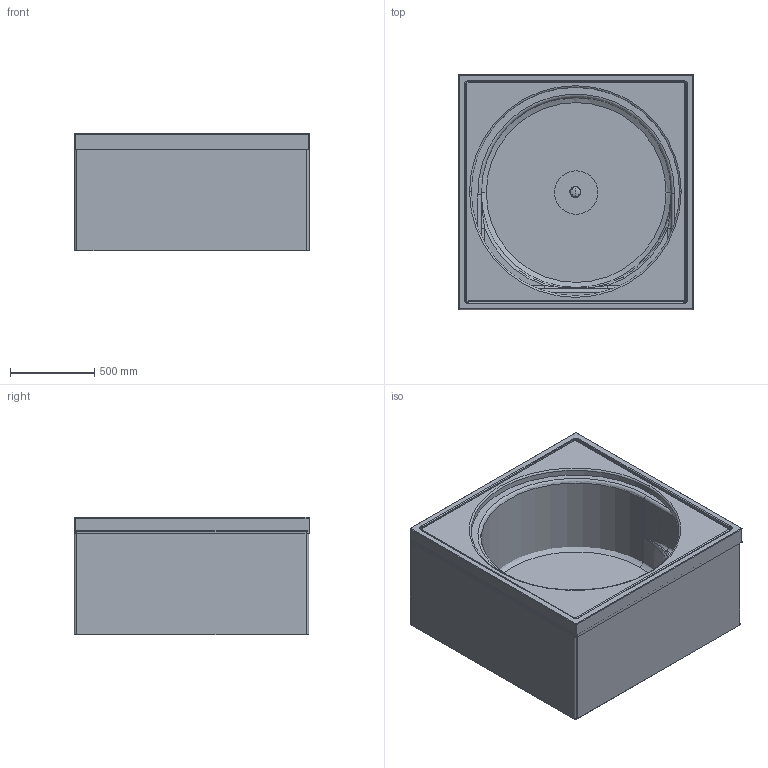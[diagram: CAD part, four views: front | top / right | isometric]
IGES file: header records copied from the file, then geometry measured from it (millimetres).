
Global section: file name: No Iges File Name specified; native system: Autodesk Inventor 2009; preprocessor: AutoDesk Inventor Iges Exporter R2009; author: Andreas; date: 20090630.103338; units: millimetre
Bounding box: 1400 x 1402.63 x 700 mm (x, y, z)
Volume: 105348912.4 mm3; surface area: 23394782 mm2
Topology: 8 solids, 8 shells, 309 faces, 744 edges, 449 vertices
Faces by surface type: plane 104, cylinder 77, revolution 53, torus 34, bspline 31, cone 6, sphere 4
